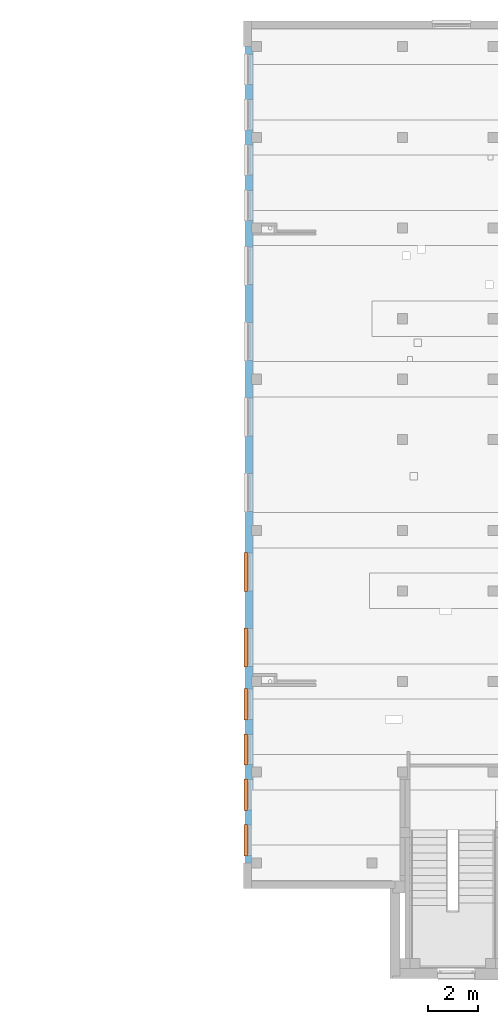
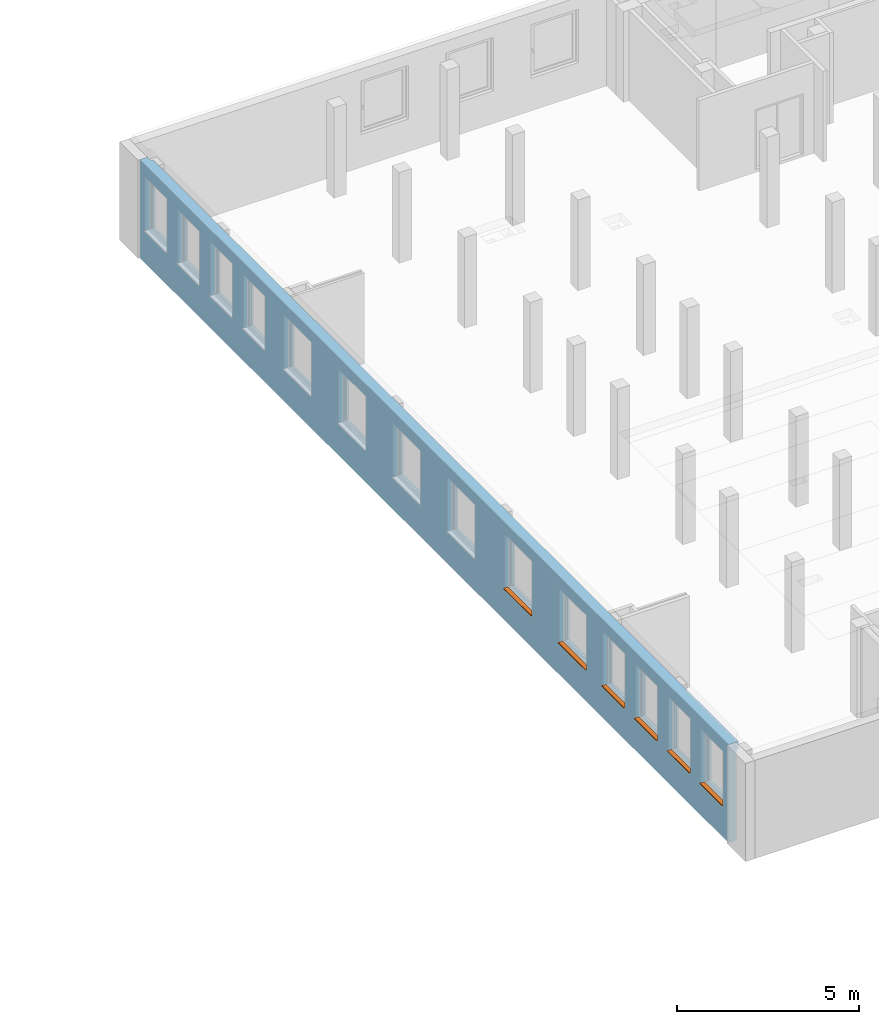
# One storey, part 21 of 27: 6 proxies, 14 openings, plus 1 element that does not belong to this part.
"""IFC4 building model written with IfcOpenShell, lengths in metres."""

from ifc_helpers import new_model, entity, si_unit, converted_unit, derived_unit, frame, origin, origin_with_axes, place, context, subcontext, project, spatial, polyline, outline, extrude, clip, bounded_halfspace, faceted_brep, source, transform, mapped, material, layer, layer_set, layer_usage, element, fill, save


model = new_model("IFC4")

# Units and contexts
model_context = context("Model", 3, precision=1e-05, world=origin())
body_context = subcontext(model_context, "Body", "Model", "MODEL_VIEW")
ifc_project = project(units=[si_unit("LENGTHUNIT", "METRE"), si_unit("AREAUNIT", "SQUARE_METRE"), si_unit("VOLUMEUNIT", "CUBIC_METRE"), si_unit("MASSUNIT", "GRAM", prefix="KILO"), converted_unit("PLANEANGLEUNIT", "DEGREE", entity("IfcPlaneAngleMeasure", 0.0174532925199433), si_unit("PLANEANGLEUNIT", "RADIAN"), dimensions=[0, 0, 0, 0, 0, 0, 0]), derived_unit("THERMALTRANSMITTANCEUNIT", [(si_unit("POWERUNIT", "WATT"), 1), (si_unit("THERMODYNAMICTEMPERATUREUNIT", "KELVIN"), -1), (si_unit("LENGTHUNIT", "METRE"), -2)]), derived_unit("VOLUMETRICFLOWRATEUNIT", [(si_unit("LENGTHUNIT", "METRE"), 3), (converted_unit("TIMEUNIT", "hour", entity("IfcTimeMeasure", 3600.0), si_unit("TIMEUNIT", "SECOND"), dimensions=[0, 0, 1, 0, 0, 0, 0]), -1), (si_unit("LENGTHUNIT", "METRE"), -1)])], contexts=[model_context])

# Site, building, storey
site_placement = place(None, origin())
site = spatial("IfcSite", under=ifc_project, at=site_placement, Name="3. ASŘ", CompositionType="ELEMENT")
building_placement = place(site_placement, origin())
building = spatial("IfcBuilding", under=site, at=building_placement, Name="Pavilon C", CompositionType="ELEMENT")
storey_placement = place(building_placement, frame((0.0, 0.0, 10.5)))
storey = spatial("IfcBuildingStorey", under=building, at=storey_placement, Name="Půdorys 4.NP", CompositionType="ELEMENT", Elevation=10.5)

# Wall, openings, proxies
ifc_material_1 = material(Name="ZELEZOBETONOVÁ KCE")
ifc_layer = layer(ifc_material_1, 0.32)
ifc_layer_set = layer_set([ifc_layer])
ifc_layer_usage = layer_usage(ifc_layer_set, "AXIS2", "POSITIVE", 0.0)
wall_placement = place(storey_placement, frame((24.5, 32.4, -0.1), z_axis=(0.0, 0.0, 1.0), x_axis=(-2.24566593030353e-16, -1.0, 0.0)))
wall = element("IfcWall", 1, at=wall_placement, inside=storey, material=ifc_layer_usage, Name="ZELEZOBETONOVÁ KCE", context=body_context, shape_type="Clipping", body=[
    clip(clip(clip(clip(clip(clip(clip(extrude(outline(polyline([(-32.4, 0.0), (-7.18613097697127e-17, -1.61376495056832e-32), (-7.18613097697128e-17, 0.32), (-32.2, 0.32), (-32.2, 0.25), (-32.4, 0.25), (-32.4, 0.0)])), frame((32.4, 0.0, 0.0), z_axis=(0.0, 0.0, 1.0), x_axis=(1.0, 0.0, 0.0)), (0.0, 0.0, 1.0), 3.3), bounded_halfspace(frame((13.2, 0.284999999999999, 3.05), z_axis=(0.0, 0.0, 1.0), x_axis=(2.24566593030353e-16, -1.0, 0.0)), True, origin_with_axes(), polyline([(13.0, 0.319999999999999), (13.0, 0.250000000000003), (13.4, 0.250000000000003), (13.4, 0.319999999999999), (13.0, 0.319999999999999)]))), bounded_halfspace(frame((25.2, 0.284999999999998, 3.05), z_axis=(0.0, 0.0, 1.0), x_axis=(2.24566593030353e-16, -1.0, 0.0)), True, origin_with_axes(), polyline([(25.0, 0.319999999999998), (25.0, 0.249999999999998), (25.4, 0.249999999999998), (25.4, 0.319999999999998), (25.0, 0.319999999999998)]))), bounded_halfspace(frame((28.8, 0.284999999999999, 3.05), z_axis=(0.0, 0.0, 1.0), x_axis=(2.24566593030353e-16, -1.0, 0.0)), True, origin_with_axes(), polyline([(28.6, 0.319999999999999), (28.6, 0.249999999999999), (29.0, 0.249999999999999), (29.0, 0.319999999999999), (28.6, 0.319999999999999)]))), bounded_halfspace(frame((19.2, 0.285000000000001, 3.05), z_axis=(0.0, 0.0, 1.0), x_axis=(2.24566593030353e-16, -1.0, 0.0)), True, origin_with_axes(), polyline([(19.0, 0.320000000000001), (19.0, 0.249999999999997), (19.4, 0.249999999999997), (19.4, 0.320000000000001), (19.0, 0.320000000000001)]))), bounded_halfspace(frame((7.2, 0.285000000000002, 3.05), z_axis=(0.0, 0.0, 1.0), x_axis=(2.24566593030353e-16, -1.0, 0.0)), True, origin_with_axes(), polyline([(7.0, 0.320000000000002), (7.0, 0.250000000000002), (7.4, 0.250000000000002), (7.4, 0.320000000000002), (7.0, 0.320000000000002)]))), bounded_halfspace(frame((32.3, 0.285, 3.05), z_axis=(0.0, 0.0, 1.0), x_axis=(2.24566593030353e-16, -1.0, 0.0)), True, origin_with_axes(), polyline([(32.2, 0.32), (32.2, 0.25), (32.4, 0.25), (32.4, 0.32), (32.2, 0.32)]))), bounded_halfspace(frame((3.6, 0.284999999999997, 3.05), z_axis=(0.0, 0.0, 1.0), x_axis=(2.24566593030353e-16, -1.0, 0.0)), True, origin_with_axes(), polyline([(3.4, 0.320000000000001), (3.4, 0.249999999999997), (3.8, 0.249999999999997), (3.8, 0.320000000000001), (3.4, 0.320000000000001)]))),
])
opening_1_placement = place(wall_placement, frame((30.9, -3.36849889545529e-16, 1.1), z_axis=(0.0, 1.0, 0.0), x_axis=(0.0, 0.0, 1.0)))
opening_1 = element("IfcOpeningElement", 2, at=opening_1_placement, cuts=wall, Name="Okenní otvor", ObjectType="Opening", context=body_context, shape_type="SweptSolid", body=[
    extrude(outline(polyline([(0.0, 1.2), (1.8, 1.2), (1.8, 0.0), (0.0, 0.0), (0.0, 1.2)])), origin_with_axes(), (0.0, 0.0, 1.0), 0.32),
])
opening_2_placement = place(wall_placement, frame((29.1, -7.41069757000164e-16, 1.1), z_axis=(0.0, 1.0, 0.0), x_axis=(0.0, 0.0, 1.0)))
opening_2 = element("IfcOpeningElement", 3, at=opening_2_placement, cuts=wall, Name="Okenní otvor", ObjectType="Opening", context=body_context, shape_type="SweptSolid", body=[
    extrude(outline(polyline([(0.0, 1.2), (1.8, 1.2), (1.8, 0.0), (0.0, 0.0), (0.0, 1.2)])), origin_with_axes(), (0.0, 0.0, 1.0), 0.32),
])
opening_3_placement = place(wall_placement, frame((27.3, -1.1452896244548e-15, 1.1), z_axis=(0.0, 1.0, 0.0), x_axis=(0.0, 0.0, 1.0)))
opening_3 = element("IfcOpeningElement", 4, at=opening_3_placement, cuts=wall, Name="Okenní otvor", ObjectType="Opening", context=body_context, shape_type="SweptSolid", body=[
    extrude(outline(polyline([(0.0, 1.2), (1.8, 1.2), (1.8, 0.0), (0.0, 0.0), (0.0, 1.2)])), origin_with_axes(), (0.0, 0.0, 1.0), 0.32),
])
opening_4_placement = place(wall_placement, frame((25.5, -1.54950949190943e-15, 1.1), z_axis=(0.0, 1.0, 0.0), x_axis=(0.0, 0.0, 1.0)))
opening_4 = element("IfcOpeningElement", 5, at=opening_4_placement, cuts=wall, Name="Okenní otvor", ObjectType="Opening", context=body_context, shape_type="SweptSolid", body=[
    extrude(outline(polyline([(0.0, 1.2), (1.8, 1.2), (1.8, 0.0), (0.0, 0.0), (0.0, 1.2)])), origin_with_axes(), (0.0, 0.0, 1.0), 0.32),
])
opening_5_placement = place(wall_placement, frame((23.1, -2.08846931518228e-15, 1.1), z_axis=(0.0, 1.0, 0.0), x_axis=(0.0, 0.0, 1.0)))
opening_5 = element("IfcOpeningElement", 6, at=opening_5_placement, cuts=wall, Name="Okenní otvor", ObjectType="Opening", context=body_context, shape_type="SweptSolid", body=[
    extrude(outline(polyline([(0.0, 1.5), (1.8, 1.5), (1.8, 0.0), (0.0, 0.0), (0.0, 1.5)])), origin_with_axes(), (0.0, 0.0, 1.0), 0.320000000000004),
])
opening_6_placement = place(wall_placement, frame((20.1, 8.75809712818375e-16, 1.1), z_axis=(0.0, 1.0, 0.0), x_axis=(0.0, 0.0, 1.0)))
opening_6 = element("IfcOpeningElement", 7, at=opening_6_placement, cuts=wall, Name="Okenní otvor", ObjectType="Opening", context=body_context, shape_type="SweptSolid", body=[
    extrude(outline(polyline([(0.0, 1.5), (1.8, 1.5), (1.8, 0.0), (0.0, 0.0), (0.0, 1.5)])), origin_with_axes(), (0.0, 0.0, 1.0), 0.32),
])
opening_7_placement = place(wall_placement, frame((16.95, 1.68424944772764e-16, 1.1), z_axis=(0.0, 1.0, 0.0), x_axis=(0.0, 0.0, 1.0)))
element("IfcOpeningElement", 8, at=opening_7_placement, cuts=wall, Name="Okenní otvor", ObjectType="Opening", context=body_context, shape_type="SweptSolid", body=[
    extrude(outline(polyline([(0.0, 1.5), (1.8, 1.5), (1.8, 0.0), (0.0, 0.0), (0.0, 1.5)])), origin_with_axes(), (0.0, 0.0, 1.0), 0.32),
])
opening_8_placement = place(wall_placement, frame((13.95, -5.05274834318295e-16, 1.1), z_axis=(0.0, 1.0, 0.0), x_axis=(0.0, 0.0, 1.0)))
element("IfcOpeningElement", 9, at=opening_8_placement, cuts=wall, Name="Okenní otvor", ObjectType="Opening", context=body_context, shape_type="SweptSolid", body=[
    extrude(outline(polyline([(0.0, 1.5), (1.8, 1.5), (1.8, 0.0), (0.0, 0.0), (0.0, 1.5)])), origin_with_axes(), (0.0, 0.0, 1.0), 0.32),
])
opening_9_placement = place(wall_placement, frame((10.95, -1.17897461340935e-15, 1.1), z_axis=(0.0, 1.0, 0.0), x_axis=(0.0, 0.0, 1.0)))
element("IfcOpeningElement", 10, at=opening_9_placement, cuts=wall, Name="Okenní otvor", ObjectType="Opening", context=body_context, shape_type="SweptSolid", body=[
    extrude(outline(polyline([(0.0, 1.5), (1.8, 1.5), (1.8, 0.0), (0.0, 0.0), (0.0, 1.5)])), origin_with_axes(), (0.0, 0.0, 1.0), 0.32),
])
opening_10_placement = place(wall_placement, frame((7.95, -1.85267439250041e-15, 1.1), z_axis=(0.0, 1.0, 0.0), x_axis=(0.0, 0.0, 1.0)))
element("IfcOpeningElement", 11, at=opening_10_placement, cuts=wall, Name="Okenní otvor", ObjectType="Opening", context=body_context, shape_type="SweptSolid", body=[
    extrude(outline(polyline([(0.0, 1.5), (1.8, 1.5), (1.8, 0.0), (0.0, 0.0), (0.0, 1.5)])), origin_with_axes(), (0.0, 0.0, 1.0), 0.320000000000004),
])
opening_11_placement = place(wall_placement, frame((5.7, 1.28002958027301e-15, 1.1), z_axis=(0.0, 1.0, 0.0), x_axis=(0.0, 0.0, 1.0)))
element("IfcOpeningElement", 12, at=opening_11_placement, cuts=wall, Name="Okenní otvor", ObjectType="Opening", context=body_context, shape_type="SweptSolid", body=[
    extrude(outline(polyline([(0.0, 1.2), (1.8, 1.2), (1.8, 0.0), (0.0, 0.0), (0.0, 1.2)])), origin_with_axes(), (0.0, 0.0, 1.0), 0.32),
])
opening_12_placement = place(wall_placement, frame((3.90000000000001, 8.75809712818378e-16, 1.1), z_axis=(0.0, 1.0, 0.0), x_axis=(0.0, 0.0, 1.0)))
element("IfcOpeningElement", 13, at=opening_12_placement, cuts=wall, Name="Okenní otvor", ObjectType="Opening", context=body_context, shape_type="SweptSolid", body=[
    extrude(outline(polyline([(0.0, 1.2), (1.8, 1.2), (1.8, 0.0), (0.0, 0.0), (0.0, 1.2)])), origin_with_axes(), (0.0, 0.0, 1.0), 0.32),
])
opening_13_placement = place(wall_placement, frame((2.10000000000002, 4.71589845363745e-16, 1.1), z_axis=(0.0, 1.0, 0.0), x_axis=(0.0, 0.0, 1.0)))
element("IfcOpeningElement", 14, at=opening_13_placement, cuts=wall, Name="Okenní otvor", ObjectType="Opening", context=body_context, shape_type="SweptSolid", body=[
    extrude(outline(polyline([(0.0, 1.2), (1.8, 1.2), (1.8, 0.0), (0.0, 0.0), (0.0, 1.2)])), origin_with_axes(), (0.0, 0.0, 1.0), 0.32),
])
opening_14_placement = place(wall_placement, frame((0.300000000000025, 6.73699779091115e-17, 1.1), z_axis=(-1.77635683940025e-16, 1.0, 0.0), x_axis=(0.0, 0.0, 1.0)))
element("IfcOpeningElement", 15, at=opening_14_placement, cuts=wall, Name="Okenní otvor", ObjectType="Opening", context=body_context, shape_type="SweptSolid", body=[
    extrude(outline(polyline([(0.0, 1.2), (1.8, 1.2), (1.8, 0.0), (0.0, 0.0), (0.0, 1.2)])), origin_with_axes(), (0.0, 0.0, 1.0), 0.32),
])
ifc_material_2 = material(Name="PLECH")
shared_shape_1 = source(origin_with_axes(), body_context, "Body", "Brep", [
    faceted_brep([(4.09272615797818e-15, -7.27595761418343e-15, 0.0), (4.09272615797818e-15, 0.0999999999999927, 0.0), (4.09272615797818e-15, 0.0999999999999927, 0.005), (4.09272615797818e-15, -7.27595761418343e-15, 0.005), (1.2, -7.27595761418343e-15, 0.0), (1.2, -7.27595761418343e-15, 0.005), (1.2, 0.0999999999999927, 0.005), (1.2, 0.0999999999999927, 0.0), (-0.0199999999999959, -7.27595761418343e-15, 0.0), (-0.0199999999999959, -0.0350000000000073, 0.0), (1.22, -0.0350000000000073, 0.0), (1.22, -7.27595761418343e-15, 0.0), (1.22, -7.27595761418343e-15, 0.005), (1.22, -0.0400000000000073, 0.005), (-0.0199999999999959, -0.0400000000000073, 0.005), (-0.0199999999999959, -7.27595761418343e-15, 0.005), (-0.0199999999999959, -0.0400000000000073, -0.025), (-0.0199999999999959, -0.0350000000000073, -0.025), (1.22, -0.0350000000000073, -0.025), (1.22, -0.0400000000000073, -0.025)], [[[0, 1, 2, 3]], [[4, 5, 6, 7]], [[1, 0, 8, 9, 10, 11, 4, 7]], [[2, 1, 7, 6]], [[3, 2, 6, 5, 12, 13, 14, 15]], [[8, 15, 14, 16, 17, 9]], [[11, 10, 18, 19, 13, 12]], [[15, 8, 0, 3]], [[5, 4, 11, 12]], [[16, 14, 13, 19]], [[17, 16, 19, 18]], [[9, 17, 18, 10]]], orient=[[False], [False], [False], [False], [False], [False], [False], [False], [False], [False], [False], [False]]),
    faceted_brep([(-0.0199999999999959, -7.27595761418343e-15, 0.0), (-0.0199999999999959, 0.0999999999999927, 0.0), (-0.0199999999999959, 0.0999999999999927, 0.005), (-0.0199999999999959, -7.27595761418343e-15, 0.005), (4.09272615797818e-15, -7.27595761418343e-15, 0.0), (4.09272615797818e-15, -7.27595761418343e-15, 0.005), (4.09272615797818e-15, 0.0999999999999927, 0.005), (4.09272615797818e-15, 0.0999999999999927, 0.0)], [[[0, 1, 2, 3]], [[4, 5, 6, 7]], [[1, 0, 4, 7]], [[2, 1, 7, 6]], [[3, 2, 6, 5]], [[0, 3, 5, 4]]], orient=[[False], [False], [False], [False], [False], [False]]),
    faceted_brep([(1.2, -7.27595761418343e-15, 0.0), (1.2, 0.0999999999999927, 0.0), (1.2, 0.0999999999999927, 0.005), (1.2, -7.27595761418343e-15, 0.005), (1.22, -7.27595761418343e-15, 0.0), (1.22, -7.27595761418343e-15, 0.005), (1.22, 0.0999999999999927, 0.005), (1.22, 0.0999999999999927, 0.0)], [[[0, 1, 2, 3]], [[4, 5, 6, 7]], [[1, 0, 4, 7]], [[2, 1, 7, 6]], [[3, 2, 6, 5]], [[0, 3, 5, 4]]], orient=[[False], [False], [False], [False], [False], [False]]),
])
proxy_1_placement = place(opening_1_placement, frame((0.0, 0.0, 0.0), z_axis=(1.0, 0.0, 0.0), x_axis=(0.0, 1.0, 0.0)))
proxy_1 = element("IfcBuildingElementProxy", 16, at=proxy_1_placement, inside=storey, material=ifc_material_2, Name="Parapet vnější", context=body_context, shape_type="MappedRepresentation", body=[
    mapped(shared_shape_1, transform((0.0, 0.0, 0.0), x_axis=(1.0, 0.0, 0.0), y_axis=(0.0, 1.0, 0.0), z_axis=(0.0, 0.0, 1.0), scale=1.0)),
])
fill(opening_1, proxy_1)
ifc_material_3 = material(Name="PLECH")
shared_shape_2 = source(origin_with_axes(), body_context, "Body", "Brep", [
    faceted_brep([(4.54747350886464e-15, -7.27595761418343e-15, 0.0), (4.54747350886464e-15, 0.0999999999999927, 0.0), (4.54747350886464e-15, 0.0999999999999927, 0.005), (4.54747350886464e-15, -7.27595761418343e-15, 0.005), (1.2, -7.27595761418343e-15, 0.0), (1.2, -7.27595761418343e-15, 0.005), (1.2, 0.0999999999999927, 0.005), (1.2, 0.0999999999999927, 0.0), (-0.0199999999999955, -7.27595761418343e-15, 0.0), (-0.0199999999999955, -0.0350000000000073, 0.0), (1.22, -0.0350000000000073, 0.0), (1.22, -7.27595761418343e-15, 0.0), (1.22, -7.27595761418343e-15, 0.005), (1.22, -0.0400000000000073, 0.005), (-0.0199999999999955, -0.0400000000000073, 0.005), (-0.0199999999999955, -7.27595761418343e-15, 0.005), (-0.0199999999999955, -0.0400000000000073, -0.025), (-0.0199999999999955, -0.0350000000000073, -0.025), (1.22, -0.0350000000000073, -0.025), (1.22, -0.0400000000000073, -0.025)], [[[0, 1, 2, 3]], [[4, 5, 6, 7]], [[1, 0, 8, 9, 10, 11, 4, 7]], [[2, 1, 7, 6]], [[3, 2, 6, 5, 12, 13, 14, 15]], [[8, 15, 14, 16, 17, 9]], [[11, 10, 18, 19, 13, 12]], [[15, 8, 0, 3]], [[5, 4, 11, 12]], [[16, 14, 13, 19]], [[17, 16, 19, 18]], [[9, 17, 18, 10]]], orient=[[False], [False], [False], [False], [False], [False], [False], [False], [False], [False], [False], [False]]),
    faceted_brep([(-0.0199999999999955, -7.27595761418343e-15, 0.0), (-0.0199999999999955, 0.0999999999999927, 0.0), (-0.0199999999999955, 0.0999999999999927, 0.005), (-0.0199999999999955, -7.27595761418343e-15, 0.005), (4.54747350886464e-15, -7.27595761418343e-15, 0.0), (4.54747350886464e-15, -7.27595761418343e-15, 0.005), (4.54747350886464e-15, 0.0999999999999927, 0.005), (4.54747350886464e-15, 0.0999999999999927, 0.0)], [[[0, 1, 2, 3]], [[4, 5, 6, 7]], [[1, 0, 4, 7]], [[2, 1, 7, 6]], [[3, 2, 6, 5]], [[0, 3, 5, 4]]], orient=[[False], [False], [False], [False], [False], [False]]),
    faceted_brep([(1.2, -7.27595761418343e-15, 0.0), (1.2, 0.0999999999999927, 0.0), (1.2, 0.0999999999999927, 0.005), (1.2, -7.27595761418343e-15, 0.005), (1.22, -7.27595761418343e-15, 0.0), (1.22, -7.27595761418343e-15, 0.005), (1.22, 0.0999999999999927, 0.005), (1.22, 0.0999999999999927, 0.0)], [[[0, 1, 2, 3]], [[4, 5, 6, 7]], [[1, 0, 4, 7]], [[2, 1, 7, 6]], [[3, 2, 6, 5]], [[0, 3, 5, 4]]], orient=[[False], [False], [False], [False], [False], [False]]),
])
proxy_2_placement = place(opening_2_placement, frame((0.0, 0.0, 0.0), z_axis=(1.0, 0.0, 0.0), x_axis=(0.0, 1.0, 0.0)))
proxy_2 = element("IfcBuildingElementProxy", 17, at=proxy_2_placement, inside=storey, material=ifc_material_3, Name="Parapet vnější", context=body_context, shape_type="MappedRepresentation", body=[
    mapped(shared_shape_2, transform((0.0, 0.0, 0.0), x_axis=(1.0, 0.0, 0.0), y_axis=(0.0, 1.0, 0.0), z_axis=(0.0, 0.0, 1.0), scale=1.0)),
])
fill(opening_2, proxy_2)
ifc_material_4 = material(Name="PLECH")
shared_shape_3 = source(origin_with_axes(), body_context, "Body", "Brep", [
    faceted_brep([(5.45696821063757e-15, -7.27595761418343e-15, 0.0), (5.45696821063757e-15, 0.0999999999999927, 0.0), (5.45696821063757e-15, 0.0999999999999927, 0.005), (5.45696821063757e-15, -7.27595761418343e-15, 0.005), (1.20000000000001, -7.27595761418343e-15, 0.0), (1.20000000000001, -7.27595761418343e-15, 0.005), (1.20000000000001, 0.0999999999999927, 0.005), (1.20000000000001, 0.0999999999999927, 0.0), (-0.0199999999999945, -7.27595761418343e-15, 0.0), (-0.0199999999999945, -0.0350000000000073, 0.0), (1.22000000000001, -0.0350000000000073, 0.0), (1.22000000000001, -7.27595761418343e-15, 0.0), (1.22000000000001, -7.27595761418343e-15, 0.005), (1.22000000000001, -0.0400000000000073, 0.005), (-0.0199999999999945, -0.0400000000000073, 0.005), (-0.0199999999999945, -7.27595761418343e-15, 0.005), (-0.0199999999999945, -0.0400000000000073, -0.025), (-0.0199999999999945, -0.0350000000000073, -0.025), (1.22000000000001, -0.0350000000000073, -0.025), (1.22000000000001, -0.0400000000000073, -0.025)], [[[0, 1, 2, 3]], [[4, 5, 6, 7]], [[1, 0, 8, 9, 10, 11, 4, 7]], [[2, 1, 7, 6]], [[3, 2, 6, 5, 12, 13, 14, 15]], [[8, 15, 14, 16, 17, 9]], [[11, 10, 18, 19, 13, 12]], [[15, 8, 0, 3]], [[5, 4, 11, 12]], [[16, 14, 13, 19]], [[17, 16, 19, 18]], [[9, 17, 18, 10]]], orient=[[False], [False], [False], [False], [False], [False], [False], [False], [False], [False], [False], [False]]),
    faceted_brep([(-0.0199999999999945, -7.27595761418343e-15, 0.0), (-0.0199999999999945, 0.0999999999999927, 0.0), (-0.0199999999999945, 0.0999999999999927, 0.005), (-0.0199999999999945, -7.27595761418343e-15, 0.005), (5.45696821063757e-15, -7.27595761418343e-15, 0.0), (5.45696821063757e-15, -7.27595761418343e-15, 0.005), (5.45696821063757e-15, 0.0999999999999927, 0.005), (5.45696821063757e-15, 0.0999999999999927, 0.0)], [[[0, 1, 2, 3]], [[4, 5, 6, 7]], [[1, 0, 4, 7]], [[2, 1, 7, 6]], [[3, 2, 6, 5]], [[0, 3, 5, 4]]], orient=[[False], [False], [False], [False], [False], [False]]),
    faceted_brep([(1.20000000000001, -7.27595761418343e-15, 0.0), (1.20000000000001, 0.0999999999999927, 0.0), (1.20000000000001, 0.0999999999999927, 0.005), (1.20000000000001, -7.27595761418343e-15, 0.005), (1.22000000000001, -7.27595761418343e-15, 0.0), (1.22000000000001, -7.27595761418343e-15, 0.005), (1.22000000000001, 0.0999999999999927, 0.005), (1.22000000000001, 0.0999999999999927, 0.0)], [[[0, 1, 2, 3]], [[4, 5, 6, 7]], [[1, 0, 4, 7]], [[2, 1, 7, 6]], [[3, 2, 6, 5]], [[0, 3, 5, 4]]], orient=[[False], [False], [False], [False], [False], [False]]),
])
proxy_3_placement = place(opening_3_placement, frame((0.0, 0.0, 0.0), z_axis=(1.0, 0.0, 0.0), x_axis=(0.0, 1.0, 0.0)))
proxy_3 = element("IfcBuildingElementProxy", 18, at=proxy_3_placement, inside=storey, material=ifc_material_4, Name="Parapet vnější", context=body_context, shape_type="MappedRepresentation", body=[
    mapped(shared_shape_3, transform((0.0, 0.0, 0.0), x_axis=(1.0, 0.0, 0.0), y_axis=(0.0, 1.0, 0.0), z_axis=(0.0, 0.0, 1.0), scale=1.0)),
])
fill(opening_3, proxy_3)
ifc_material_5 = material(Name="PLECH")
shared_shape_4 = source(origin_with_axes(), body_context, "Body", "Brep", [
    faceted_brep([(5.45696821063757e-15, -7.27595761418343e-15, 0.0), (5.45696821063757e-15, 0.0999999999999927, 0.0), (5.45696821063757e-15, 0.0999999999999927, 0.005), (5.45696821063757e-15, -7.27595761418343e-15, 0.005), (1.20000000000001, -7.27595761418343e-15, 0.0), (1.20000000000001, -7.27595761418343e-15, 0.005), (1.20000000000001, 0.0999999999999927, 0.005), (1.20000000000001, 0.0999999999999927, 0.0), (-0.0199999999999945, -7.27595761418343e-15, 0.0), (-0.0199999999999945, -0.0350000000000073, 0.0), (1.22000000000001, -0.0350000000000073, 0.0), (1.22000000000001, -7.27595761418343e-15, 0.0), (1.22000000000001, -7.27595761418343e-15, 0.005), (1.22000000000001, -0.0400000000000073, 0.005), (-0.0199999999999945, -0.0400000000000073, 0.005), (-0.0199999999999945, -7.27595761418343e-15, 0.005), (-0.0199999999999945, -0.0400000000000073, -0.025), (-0.0199999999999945, -0.0350000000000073, -0.025), (1.22000000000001, -0.0350000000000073, -0.025), (1.22000000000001, -0.0400000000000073, -0.025)], [[[0, 1, 2, 3]], [[4, 5, 6, 7]], [[1, 0, 8, 9, 10, 11, 4, 7]], [[2, 1, 7, 6]], [[3, 2, 6, 5, 12, 13, 14, 15]], [[8, 15, 14, 16, 17, 9]], [[11, 10, 18, 19, 13, 12]], [[15, 8, 0, 3]], [[5, 4, 11, 12]], [[16, 14, 13, 19]], [[17, 16, 19, 18]], [[9, 17, 18, 10]]], orient=[[False], [False], [False], [False], [False], [False], [False], [False], [False], [False], [False], [False]]),
    faceted_brep([(-0.0199999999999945, -7.27595761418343e-15, 0.0), (-0.0199999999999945, 0.0999999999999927, 0.0), (-0.0199999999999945, 0.0999999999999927, 0.005), (-0.0199999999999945, -7.27595761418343e-15, 0.005), (5.45696821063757e-15, -7.27595761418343e-15, 0.0), (5.45696821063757e-15, -7.27595761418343e-15, 0.005), (5.45696821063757e-15, 0.0999999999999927, 0.005), (5.45696821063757e-15, 0.0999999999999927, 0.0)], [[[0, 1, 2, 3]], [[4, 5, 6, 7]], [[1, 0, 4, 7]], [[2, 1, 7, 6]], [[3, 2, 6, 5]], [[0, 3, 5, 4]]], orient=[[False], [False], [False], [False], [False], [False]]),
    faceted_brep([(1.20000000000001, -7.27595761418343e-15, 0.0), (1.20000000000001, 0.0999999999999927, 0.0), (1.20000000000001, 0.0999999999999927, 0.005), (1.20000000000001, -7.27595761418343e-15, 0.005), (1.22000000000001, -7.27595761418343e-15, 0.0), (1.22000000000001, -7.27595761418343e-15, 0.005), (1.22000000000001, 0.0999999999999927, 0.005), (1.22000000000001, 0.0999999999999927, 0.0)], [[[0, 1, 2, 3]], [[4, 5, 6, 7]], [[1, 0, 4, 7]], [[2, 1, 7, 6]], [[3, 2, 6, 5]], [[0, 3, 5, 4]]], orient=[[False], [False], [False], [False], [False], [False]]),
])
proxy_4_placement = place(opening_4_placement, frame((0.0, 0.0, 0.0), z_axis=(1.0, 0.0, 0.0), x_axis=(0.0, 1.0, 0.0)))
proxy_4 = element("IfcBuildingElementProxy", 19, at=proxy_4_placement, inside=storey, material=ifc_material_5, Name="Parapet vnější", context=body_context, shape_type="MappedRepresentation", body=[
    mapped(shared_shape_4, transform((0.0, 0.0, 0.0), x_axis=(1.0, 0.0, 0.0), y_axis=(0.0, 1.0, 0.0), z_axis=(0.0, 0.0, 1.0), scale=1.0)),
])
fill(opening_4, proxy_4)
ifc_material_6 = material(Name="PLECH")
shared_shape_5 = source(origin_with_axes(), body_context, "Body", "Brep", [
    faceted_brep([(7.27595761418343e-15, -7.27595761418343e-15, 0.0), (7.27595761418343e-15, 0.0999999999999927, 0.0), (7.27595761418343e-15, 0.0999999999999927, 0.005), (7.27595761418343e-15, -7.27595761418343e-15, 0.005), (1.5, -3.63797880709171e-15, 0.0), (1.5, -3.63797880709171e-15, 0.005), (1.5, 0.0999999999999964, 0.005), (1.5, 0.0999999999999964, 0.0), (-0.0199999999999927, -7.27595761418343e-15, 0.0), (-0.0199999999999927, -0.0350000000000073, 0.0), (1.52, -0.0350000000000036, 0.0), (1.52, -3.63797880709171e-15, 0.0), (1.52, -3.63797880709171e-15, 0.005), (1.52, -0.0400000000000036, 0.005), (-0.0199999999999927, -0.0400000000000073, 0.005), (-0.0199999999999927, -7.27595761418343e-15, 0.005), (-0.0199999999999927, -0.0400000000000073, -0.025), (-0.0199999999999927, -0.0350000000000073, -0.025), (1.52, -0.0350000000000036, -0.025), (1.52, -0.0400000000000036, -0.025)], [[[0, 1, 2, 3]], [[4, 5, 6, 7]], [[1, 0, 8, 9, 10, 11, 4, 7]], [[2, 1, 7, 6]], [[3, 2, 6, 5, 12, 13, 14, 15]], [[8, 15, 14, 16, 17, 9]], [[11, 10, 18, 19, 13, 12]], [[15, 8, 0, 3]], [[5, 4, 11, 12]], [[16, 14, 13, 19]], [[17, 16, 19, 18]], [[9, 17, 18, 10]]], orient=[[False], [False], [False], [False], [False], [False], [False], [False], [False], [False], [False], [False]]),
    faceted_brep([(-0.0199999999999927, -7.27595761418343e-15, 0.0), (-0.0199999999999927, 0.0999999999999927, 0.0), (-0.0199999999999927, 0.0999999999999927, 0.005), (-0.0199999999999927, -7.27595761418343e-15, 0.005), (7.27595761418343e-15, -7.27595761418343e-15, 0.0), (7.27595761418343e-15, -7.27595761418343e-15, 0.005), (7.27595761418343e-15, 0.0999999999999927, 0.005), (7.27595761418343e-15, 0.0999999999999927, 0.0)], [[[0, 1, 2, 3]], [[4, 5, 6, 7]], [[1, 0, 4, 7]], [[2, 1, 7, 6]], [[3, 2, 6, 5]], [[0, 3, 5, 4]]], orient=[[False], [False], [False], [False], [False], [False]]),
    faceted_brep([(1.5, -3.63797880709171e-15, 0.0), (1.5, 0.0999999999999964, 0.0), (1.5, 0.0999999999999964, 0.005), (1.5, -3.63797880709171e-15, 0.005), (1.52, -3.63797880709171e-15, 0.0), (1.52, -3.63797880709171e-15, 0.005), (1.52, 0.0999999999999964, 0.005), (1.52, 0.0999999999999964, 0.0)], [[[0, 1, 2, 3]], [[4, 5, 6, 7]], [[1, 0, 4, 7]], [[2, 1, 7, 6]], [[3, 2, 6, 5]], [[0, 3, 5, 4]]], orient=[[False], [False], [False], [False], [False], [False]]),
])
proxy_5_placement = place(opening_5_placement, frame((0.0, 0.0, 0.0), z_axis=(1.0, 0.0, 0.0), x_axis=(0.0, 1.0, 0.0)))
proxy_5 = element("IfcBuildingElementProxy", 20, at=proxy_5_placement, inside=storey, material=ifc_material_6, Name="Parapet vnější", context=body_context, shape_type="MappedRepresentation", body=[
    mapped(shared_shape_5, transform((0.0, 0.0, 0.0), x_axis=(1.0, 0.0, 0.0), y_axis=(0.0, 1.0, 0.0), z_axis=(0.0, 0.0, 1.0), scale=1.0)),
])
fill(opening_5, proxy_5)
ifc_material_7 = material(Name="PLECH")
shared_shape_6 = source(origin_with_axes(), body_context, "Body", "Brep", [
    faceted_brep([(7.27595761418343e-15, -7.27595761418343e-15, 0.0), (7.27595761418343e-15, 0.0999999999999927, 0.0), (7.27595761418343e-15, 0.0999999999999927, 0.005), (7.27595761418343e-15, -7.27595761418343e-15, 0.005), (1.50000000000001, -7.27595761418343e-15, 0.0), (1.50000000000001, -7.27595761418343e-15, 0.005), (1.50000000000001, 0.0999999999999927, 0.005), (1.50000000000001, 0.0999999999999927, 0.0), (-0.0199999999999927, -7.27595761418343e-15, 0.0), (-0.0199999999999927, -0.0350000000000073, 0.0), (1.52000000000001, -0.0350000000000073, 0.0), (1.52000000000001, -7.27595761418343e-15, 0.0), (1.52000000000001, -7.27595761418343e-15, 0.005), (1.52000000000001, -0.0400000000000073, 0.005), (-0.0199999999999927, -0.0400000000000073, 0.005), (-0.0199999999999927, -7.27595761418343e-15, 0.005), (-0.0199999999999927, -0.0400000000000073, -0.025), (-0.0199999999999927, -0.0350000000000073, -0.025), (1.52000000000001, -0.0350000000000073, -0.025), (1.52000000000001, -0.0400000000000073, -0.025)], [[[0, 1, 2, 3]], [[4, 5, 6, 7]], [[1, 0, 8, 9, 10, 11, 4, 7]], [[2, 1, 7, 6]], [[3, 2, 6, 5, 12, 13, 14, 15]], [[8, 15, 14, 16, 17, 9]], [[11, 10, 18, 19, 13, 12]], [[15, 8, 0, 3]], [[5, 4, 11, 12]], [[16, 14, 13, 19]], [[17, 16, 19, 18]], [[9, 17, 18, 10]]], orient=[[False], [False], [False], [False], [False], [False], [False], [False], [False], [False], [False], [False]]),
    faceted_brep([(-0.0199999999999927, -7.27595761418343e-15, 0.0), (-0.0199999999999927, 0.0999999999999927, 0.0), (-0.0199999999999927, 0.0999999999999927, 0.005), (-0.0199999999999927, -7.27595761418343e-15, 0.005), (7.27595761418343e-15, -7.27595761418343e-15, 0.0), (7.27595761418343e-15, -7.27595761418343e-15, 0.005), (7.27595761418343e-15, 0.0999999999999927, 0.005), (7.27595761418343e-15, 0.0999999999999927, 0.0)], [[[0, 1, 2, 3]], [[4, 5, 6, 7]], [[1, 0, 4, 7]], [[2, 1, 7, 6]], [[3, 2, 6, 5]], [[0, 3, 5, 4]]], orient=[[False], [False], [False], [False], [False], [False]]),
    faceted_brep([(1.50000000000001, -7.27595761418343e-15, 0.0), (1.50000000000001, 0.0999999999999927, 0.0), (1.50000000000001, 0.0999999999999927, 0.005), (1.50000000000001, -7.27595761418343e-15, 0.005), (1.52000000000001, -7.27595761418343e-15, 0.0), (1.52000000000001, -7.27595761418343e-15, 0.005), (1.52000000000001, 0.0999999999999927, 0.005), (1.52000000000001, 0.0999999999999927, 0.0)], [[[0, 1, 2, 3]], [[4, 5, 6, 7]], [[1, 0, 4, 7]], [[2, 1, 7, 6]], [[3, 2, 6, 5]], [[0, 3, 5, 4]]], orient=[[False], [False], [False], [False], [False], [False]]),
])
proxy_6_placement = place(opening_6_placement, frame((0.0, 0.0, 0.0), z_axis=(1.0, 0.0, 0.0), x_axis=(0.0, 1.0, 0.0)))
proxy_6 = element("IfcBuildingElementProxy", 21, at=proxy_6_placement, inside=storey, material=ifc_material_7, Name="Parapet vnější", context=body_context, shape_type="MappedRepresentation", body=[
    mapped(shared_shape_6, transform((0.0, 0.0, 0.0), x_axis=(1.0, 0.0, 0.0), y_axis=(0.0, 1.0, 0.0), z_axis=(0.0, 0.0, 1.0), scale=1.0)),
])
fill(opening_6, proxy_6)

save(model, "model.ifc")
